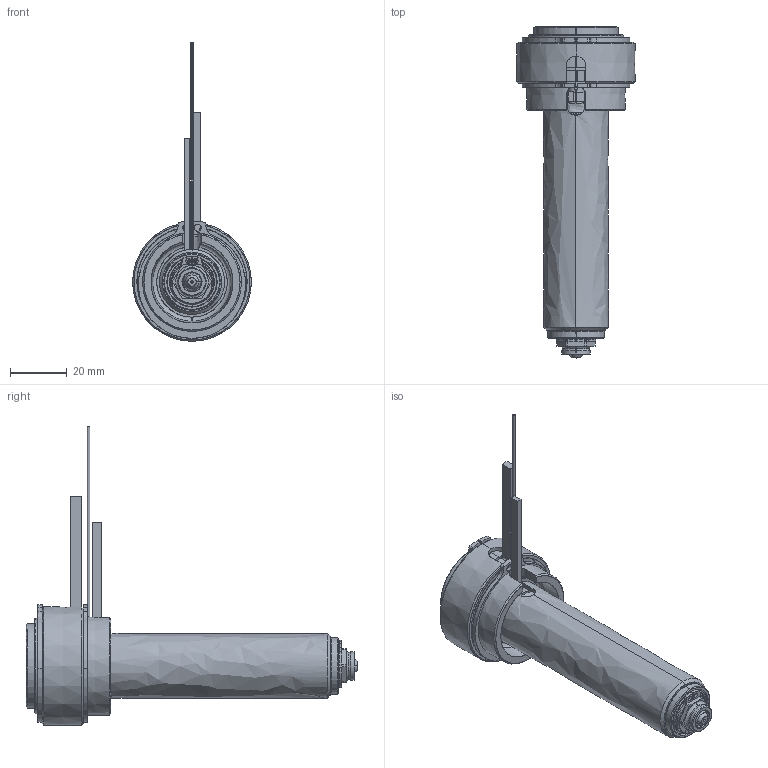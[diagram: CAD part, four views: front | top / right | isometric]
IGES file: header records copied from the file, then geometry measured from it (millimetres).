
Start section: SolidWorks IGES file using analytic representation for surfaces
Global section: file name: C:\Documents and Settings\ws-20\Desktop\TEM\UGER3552-M-A-1 [Øb-0.90  ØC-6.0].IGS; native system: SolidWorks 2012; preprocessor: SolidWorks 2012; author: ws-20; date: 120410.094438; units: millimetre
Bounding box: 42 x 117.4 x 105.6 mm (x, y, z)
Surface area: 37205.3 mm2 (no closed solid volume)
Topology: 0 solids, 0 shells, 199 faces, 3256 edges, 3256 vertices
Faces by surface type: revolution 128, bspline 71
